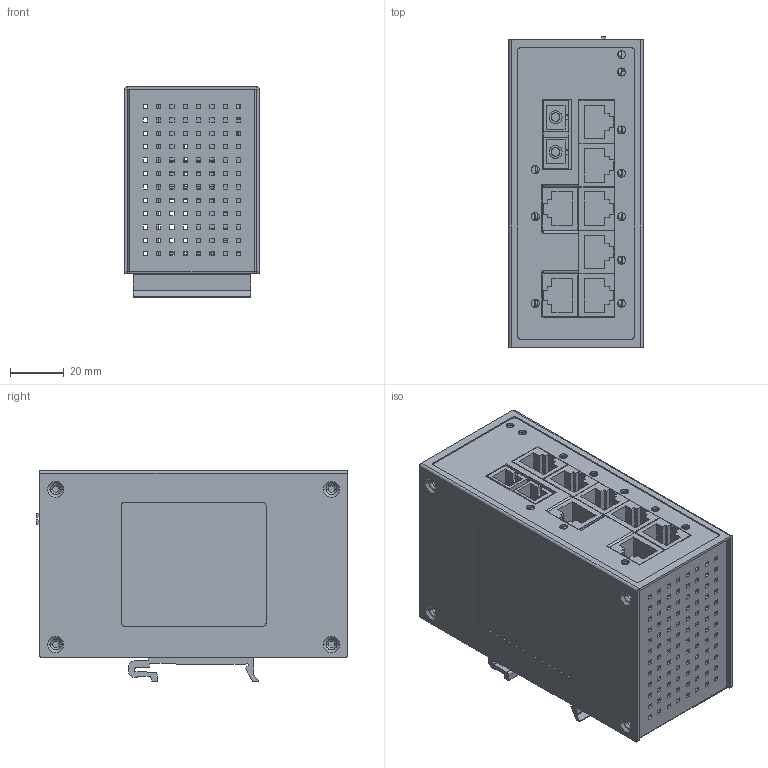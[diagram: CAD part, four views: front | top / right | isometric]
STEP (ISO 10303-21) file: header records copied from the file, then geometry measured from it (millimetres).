
FILE_DESCRIPTION((''),'2;1');
FILE_NAME('EDS-208A-M-SC','2010-08-17T',('Chialu_Chang'),(''),'PRO/ENGINEER BY PARAMETRIC TECHNOLOGY CORPORATION, 2004440','PRO/ENGINEER BY PARAMETRIC TECHNOLOGY CORPORATION, 2004440','');
FILE_SCHEMA(('CONFIG_CONTROL_DESIGN'));
Products named in the file (1): EDS-208A-M-SC
Bounding box: 50.3 x 116.2 x 78.8 mm (x, y, z)
Surface area: 148542.7 mm2 (no closed solid volume)
Topology: 0 solids, 67 shells, 3943 faces, 9860 edges, 6282 vertices
Faces by surface type: plane 3285, cylinder 548, torus 64, cone 46
Entity records: 116506 total; most frequent: CARTESIAN_POINT 20165, ORIENTED_EDGE 19712, DIRECTION 19212, EDGE_CURVE 9860, VECTOR 8374, LINE 8374, VERTEX_POINT 6282, AXIS2_PLACEMENT_3D 5419
